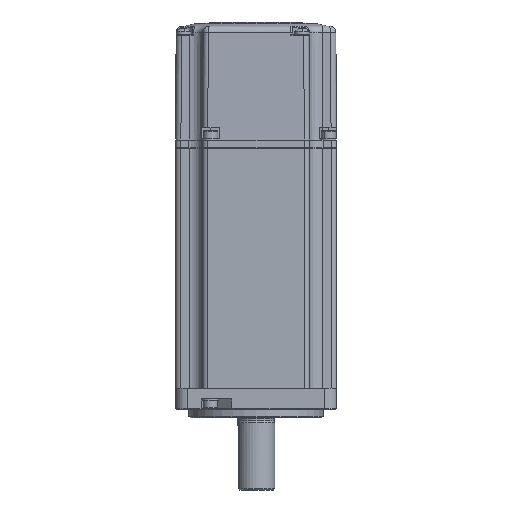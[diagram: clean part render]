
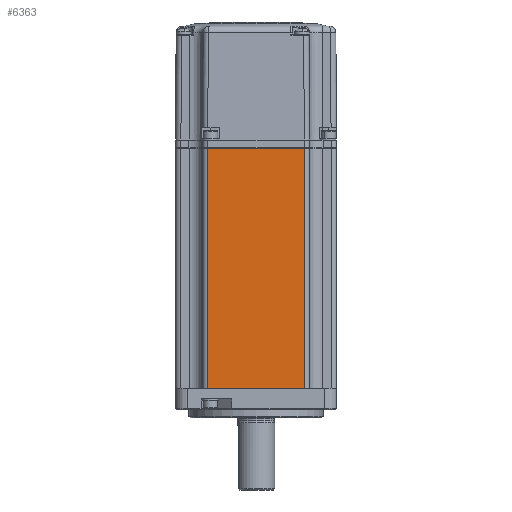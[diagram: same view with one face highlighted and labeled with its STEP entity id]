
A CAD part, front view. The second image highlights one B-rep face of the part: STEP entity #6363.
In plain terms, the highlighted planar face has unit normal (0, -1, 0).
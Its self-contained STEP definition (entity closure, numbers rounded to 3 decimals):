
#567 = VERTEX_POINT ( 'NONE', #46740 ) ;
#581 = CARTESIAN_POINT ( 'NONE',  ( 30., -30., 7.25 ) ) ;
#718 = DIRECTION ( 'NONE',  ( 0., 0., -1. ) ) ;
#1379 = ORIENTED_EDGE ( 'NONE', *, *, #1983, .T. ) ;
#1983 = EDGE_CURVE ( 'NONE', #8038, #567, #47246, .T. ) ;
#3805 = DIRECTION ( 'NONE',  ( 0., 1., 0. ) ) ;
#4320 = PLANE ( 'NONE',  #37733 ) ;
#5953 = EDGE_CURVE ( 'NONE', #8038, #29510, #34547, .T. ) ;
#6363 = ADVANCED_FACE ( 'NONE', ( #10291 ), #4320, .F. ) ;
#6954 = EDGE_CURVE ( 'NONE', #39664, #567, #35808, .T. ) ;
#8038 = VERTEX_POINT ( 'NONE', #42409 ) ;
#8367 = DIRECTION ( 'NONE',  ( -1., 0., 0. ) ) ;
#8862 = LINE ( 'NONE', #11266, #11353 ) ;
#10291 = FACE_OUTER_BOUND ( 'NONE', #20795, .T. ) ;
#11266 = CARTESIAN_POINT ( 'NONE',  ( -18., -30., 98. ) ) ;
#11353 = VECTOR ( 'NONE', #718, 1000. ) ;
#17349 = CARTESIAN_POINT ( 'NONE',  ( -18., -30., 7.25 ) ) ;
#18651 = VECTOR ( 'NONE', #18744, 1000. ) ;
#18744 = DIRECTION ( 'NONE',  ( 0., 0., 1. ) ) ;
#20795 = EDGE_LOOP ( 'NONE', ( #39288, #1379, #23193, #43680 ) ) ;
#23193 = ORIENTED_EDGE ( 'NONE', *, *, #6954, .F. ) ;
#26556 = DIRECTION ( 'NONE',  ( 1., 0., 0. ) ) ;
#29510 = VERTEX_POINT ( 'NONE', #17349 ) ;
#31475 = VECTOR ( 'NONE', #8367, 1000. ) ;
#31726 = DIRECTION ( 'NONE',  ( -1., 0., 0. ) ) ;
#31829 = CARTESIAN_POINT ( 'NONE',  ( -18., -30., 96.75 ) ) ;
#34205 = CARTESIAN_POINT ( 'NONE',  ( 18., -30., 98. ) ) ;
#34547 = LINE ( 'NONE', #581, #31475 ) ;
#35808 = LINE ( 'NONE', #42521, #50656 ) ;
#36050 = CARTESIAN_POINT ( 'NONE',  ( -20., -30., 98. ) ) ;
#37733 = AXIS2_PLACEMENT_3D ( 'NONE', #36050, #3805, #31726 ) ;
#39288 = ORIENTED_EDGE ( 'NONE', *, *, #5953, .F. ) ;
#39664 = VERTEX_POINT ( 'NONE', #31829 ) ;
#42409 = CARTESIAN_POINT ( 'NONE',  ( 18., -30., 7.25 ) ) ;
#42521 = CARTESIAN_POINT ( 'NONE',  ( -30., -30., 96.75 ) ) ;
#43680 = ORIENTED_EDGE ( 'NONE', *, *, #45839, .T. ) ;
#45839 = EDGE_CURVE ( 'NONE', #39664, #29510, #8862, .T. ) ;
#46740 = CARTESIAN_POINT ( 'NONE',  ( 18., -30., 96.75 ) ) ;
#47246 = LINE ( 'NONE', #34205, #18651 ) ;
#50656 = VECTOR ( 'NONE', #26556, 1000. ) ;
